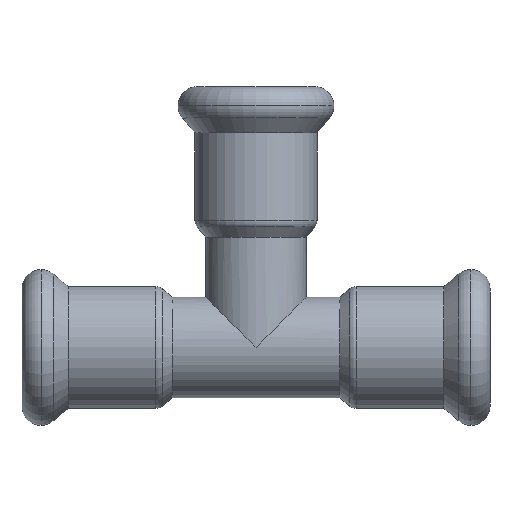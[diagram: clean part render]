
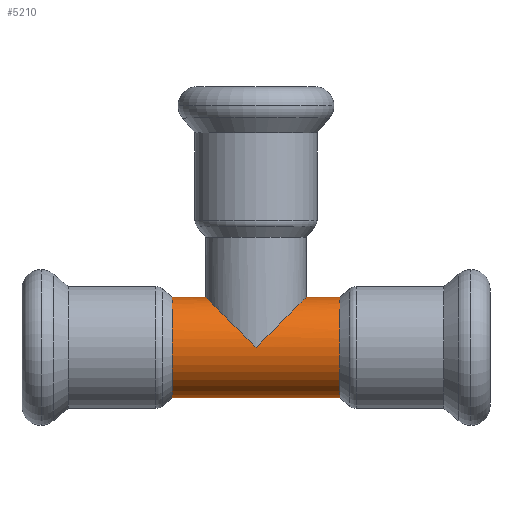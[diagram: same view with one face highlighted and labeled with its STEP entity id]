
A CAD part, top view. The second image highlights one B-rep face of the part: STEP entity #5210.
In plain terms, the highlighted cylindrical face has radius 7.5 mm (diameter 15 mm), a partial arc.
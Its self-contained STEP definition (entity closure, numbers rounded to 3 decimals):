
#610=CARTESIAN_POINT('',(-103.693,29.909,0.));
#620=VERTEX_POINT('',#610);
#800=CARTESIAN_POINT('',(-88.693,29.909,
0.));
#810=VERTEX_POINT('',#800);
#840=CARTESIAN_POINT('',(-96.193,22.409,0.));
#850=DIRECTION('',(-0.707,0.707,0.));
#860=DIRECTION('',(0.707,0.707,0.));
#870=AXIS2_PLACEMENT_3D('',#840,#850,#860);
#880=ELLIPSE('',#870,10.607,7.5);
#890=CARTESIAN_POINT('',(-96.193,22.409,
7.5));
#900=VERTEX_POINT('',#890);
#910=EDGE_CURVE('',#900,#810,#880,.T.);
#930=CARTESIAN_POINT('',(-96.193,22.409,0.));
#940=DIRECTION('',(0.707,0.707,0.));
#950=DIRECTION('',(-0.707,0.707,0.));
#960=AXIS2_PLACEMENT_3D('',#930,#940,#950);
#970=ELLIPSE('',#960,10.607,7.5);
#980=EDGE_CURVE('',#620,#900,#970,.T.);
#4760=CARTESIAN_POINT('',(-108.693,22.409,0.));
#4770=DIRECTION('',(-1.,0.,0.));
#4780=DIRECTION('',(0.,1.,0.));
#4790=AXIS2_PLACEMENT_3D('',#4760,#4770,#4780);
#4800=CYLINDRICAL_SURFACE('',#4790,7.5);
#4810=CARTESIAN_POINT('',(-108.693,14.909,
0.));
#4820=DIRECTION('',(-1.,0.,0.));
#4830=VECTOR('',#4820,1.);
#4840=LINE('',#4810,#4830);
#4850=CARTESIAN_POINT('',(-83.693,14.909,
0.));
#4860=VERTEX_POINT('',#4850);
#4870=CARTESIAN_POINT('',(-108.693,14.909,
0.));
#4880=VERTEX_POINT('',#4870);
#4890=EDGE_CURVE('',#4860,#4880,#4840,.T.);
#4900=ORIENTED_EDGE('',*,*,#4890,.F.);
#4910=CARTESIAN_POINT('',(-108.693,22.409,0.));
#4920=DIRECTION('',(-1.,0.,0.));
#4930=DIRECTION('',(0.,1.,0.));
#4940=AXIS2_PLACEMENT_3D('',#4910,#4920,#4930);
#4950=CIRCLE('',#4940,7.5);
#4960=CARTESIAN_POINT('',(-108.693,29.909,0.));
#4970=VERTEX_POINT('',#4960);
#4980=EDGE_CURVE('',#4880,#4970,#4950,.T.);
#4990=ORIENTED_EDGE('',*,*,#4980,.F.);
#5000=CARTESIAN_POINT('',(-108.693,29.909,0.));
#5010=DIRECTION('',(-1.,0.,0.));
#5020=VECTOR('',#5010,1.);
#5030=LINE('',#5000,#5020);
#5040=EDGE_CURVE('',#620,#4970,#5030,.T.);
#5050=ORIENTED_EDGE('',*,*,#5040,.T.);
#5060=ORIENTED_EDGE('',*,*,#980,.F.);
#5070=ORIENTED_EDGE('',*,*,#910,.F.);
#5080=CARTESIAN_POINT('',(-83.693,29.909,0.));
#5090=VERTEX_POINT('',#5080);
#5100=EDGE_CURVE('',#5090,#810,#5030,.T.);
#5110=ORIENTED_EDGE('',*,*,#5100,.T.);
#5120=CARTESIAN_POINT('',(-83.693,22.409,0.));
#5130=DIRECTION('',(-1.,0.,0.));
#5140=DIRECTION('',(0.,1.,0.));
#5150=AXIS2_PLACEMENT_3D('',#5120,#5130,#5140);
#5160=CIRCLE('',#5150,7.5);
#5170=EDGE_CURVE('',#4860,#5090,#5160,.T.);
#5180=ORIENTED_EDGE('',*,*,#5170,.T.);
#5190=EDGE_LOOP('',(#5180,#5110,#5070,#5060,#5050,#4990,#4900));
#5200=FACE_OUTER_BOUND('',#5190,.T.);
#5210=ADVANCED_FACE('',(#5200),#4800,.T.);
